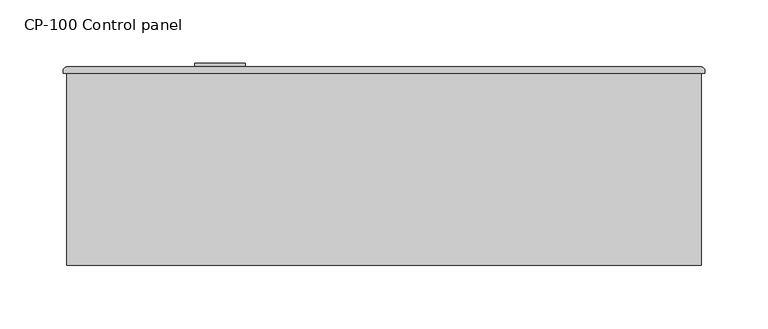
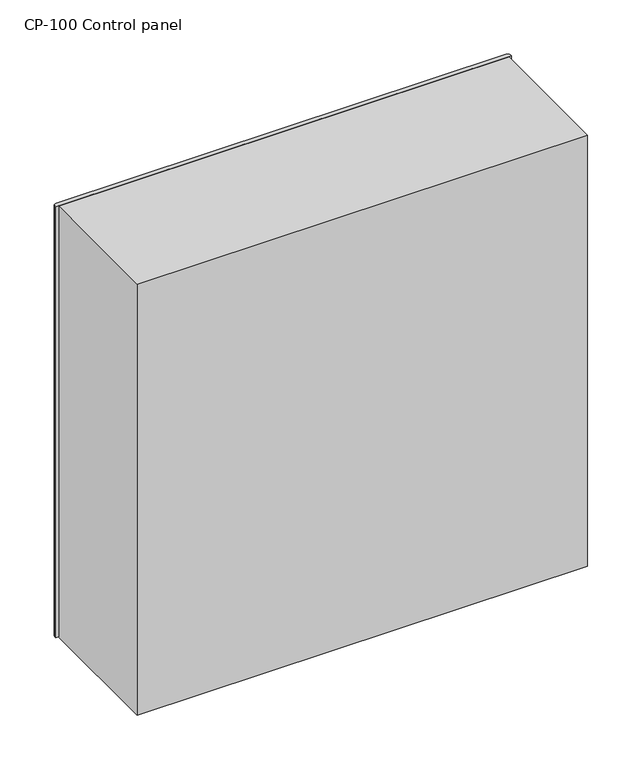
"""IFC4 building model written with IfcOpenShell, lengths in millimetres: proxy geometry, CP-100_Control_Panel_Wallmount_BIM_Model_Config6 : CP-100 Control panel."""

from ifc_helpers import new_model, si_unit, point, frame, frame_2d, origin, place, context, project, spatial, polyline, circle_curve, trimmed, segment, composite_curve, outline, extrude, source, transform, mapped, element, save


def cp_100_control_panel_77914c75(model_context):
    return source(origin(), model_context, "Body", "SweptSolid", [
        extrude(outline(composite_curve([segment(trimmed(circle_curve(frame_2d((381.0, -16.7274277)), 20.0), [point((381.0, -36.7274277))], [point((381.0, 3.2725723))], False, "CARTESIAN"), True, "CONTINUOUS"), segment(trimmed(circle_curve(frame_2d((381.0, -16.7274277)), 20.0), [point((381.0, 3.2725723))], [point((381.0, -36.7274277))], False, "CARTESIAN"), True, "CONTINUOUS")], self_intersect=False), holes=[polyline([(388.2746144, -18.5031745), (388.2746144, -13.5031745), (373.2746144, -13.5031745), (373.2746144, -18.5031745), (388.2746144, -18.5031745)])]), frame((0.0, 158.0, 0.0), z_axis=(0.0, 1.0, 0.0), x_axis=(0.0, 0.0, 1.0)), (0.0, 0.0, 1.0), 3.0),
        extrude(outline(composite_curve([segment(trimmed(circle_curve(frame_2d((364.2220771, 155.0)), 3.0), [point((364.2220771, 158.0))], [point((367.2220771, 155.0))], False, "CARTESIAN"), True, "CONTINUOUS"), segment(polyline([(367.2220771, 155.0), (367.2220771, 153.0), (-140.7779229, 153.0), (-140.7779229, 155.0)]), True, "CONTINUOUS"), segment(trimmed(circle_curve(frame_2d((-137.7779229, 155.0)), 3.0), [point((-140.7779229, 155.0))], [point((-137.7779229, 158.0))], False, "CARTESIAN"), True, "CONTINUOUS"), segment(polyline([(-137.7779229, 158.0), (364.2220771, 158.0)]), True, "CONTINUOUS")], self_intersect=False)), frame((0.0, 0.0, 127.0), z_axis=(0.0, 0.0, 1.0), x_axis=(1.0, 0.0, 0.0)), (0.0, 0.0, 1.0), 508.0),
        extrude(outline(polyline([(364.2220771, 153.0), (364.2220771, 1.0), (-137.7779229, 1.0), (-137.7779229, 153.0), (364.2220771, 153.0)])), frame((0.0, 0.0, 127.0), z_axis=(0.0, 0.0, 1.0), x_axis=(1.0, 0.0, 0.0)), (0.0, 0.0, 1.0), 508.0),
    ])


if __name__ == "__main__":
    model = new_model("IFC4")
    model_context = context("Model", 3, world=origin())
    ifc_project = project(units=[si_unit("LENGTHUNIT", "METRE", prefix="MILLI")], contexts=[model_context])
    site = spatial("IfcSite", under=ifc_project)
    building = spatial("IfcBuilding", under=site)
    placement = place(None, origin())
    cp_100_control_panel_shape = cp_100_control_panel_77914c75(model_context)
    element("IfcBuildingElementProxy", 1, Name="CP-100_Control_Panel_Wallmount_BIM_Model_Config6 : CP-100 Control panel", ObjectType="CP-100_Control_Panel_Wallmount_BIM_Model_Config6 : CP-100 Control panel", at=placement, inside=building, context=model_context, shape_type="MappedRepresentation", body=[
        mapped(cp_100_control_panel_shape, transform((0.0, 0.0, 0.0), x_axis=(1.0, 0.0, 0.0), y_axis=(0.0, 1.0, 0.0), z_axis=(0.0, 0.0, 1.0))),
    ])
    save(model, "model.ifc")
